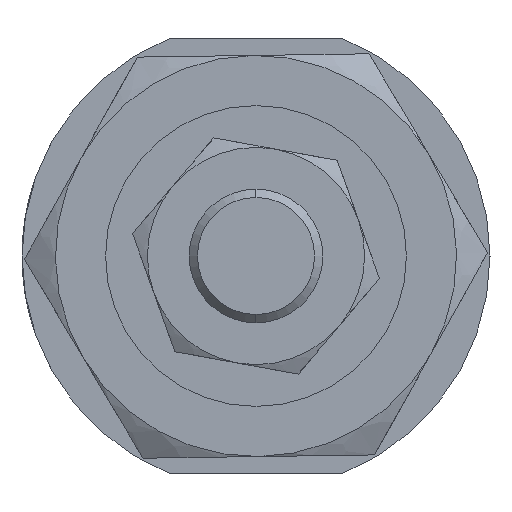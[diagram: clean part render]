
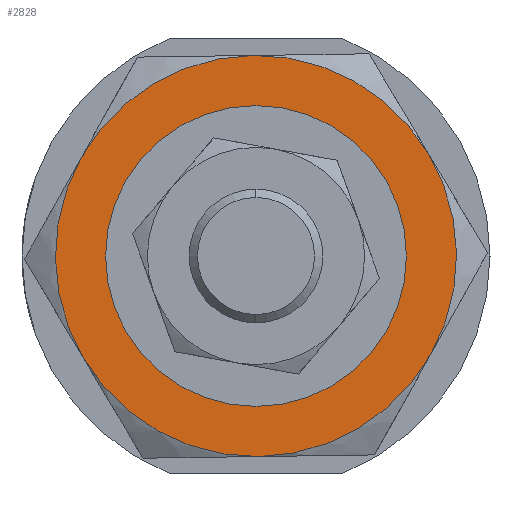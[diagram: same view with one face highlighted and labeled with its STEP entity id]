
A CAD part, left-side view. The second image highlights one B-rep face of the part: STEP entity #2828.
In plain terms, the highlighted planar face has unit normal (-1, 0, 0) as drawn and (0, 0, -1) by its records, which use the part's own axes.
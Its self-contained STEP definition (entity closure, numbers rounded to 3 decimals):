
#11 = CARTESIAN_POINT ( 'NONE',  ( 0., 0., -4. ) ) ;
#21 = VERTEX_POINT ( 'NONE', #2482 ) ;
#34 = CIRCLE ( 'NONE', #2587, 8.25 ) ;
#95 = EDGE_CURVE ( 'NONE', #2092, #21, #34, .T. ) ;
#115 = EDGE_CURVE ( 'NONE', #1428, #842, #1124, .T. ) ;
#134 = DIRECTION ( 'NONE',  ( 1., 0., 0. ) ) ;
#168 = AXIS2_PLACEMENT_3D ( 'NONE', #1250, #2747, #303 ) ;
#170 = CARTESIAN_POINT ( 'NONE',  ( 0., 0., -4. ) ) ;
#215 = AXIS2_PLACEMENT_3D ( 'NONE', #595, #2532, #134 ) ;
#241 = CARTESIAN_POINT ( 'NONE',  ( 0., 0., -4. ) ) ;
#242 = VERTEX_POINT ( 'NONE', #480 ) ;
#274 = ORIENTED_EDGE ( 'NONE', *, *, #1586, .T. ) ;
#299 = DIRECTION ( 'NONE',  ( 1., 0., 0. ) ) ;
#303 = DIRECTION ( 'NONE',  ( 1., 0., 0. ) ) ;
#356 = DIRECTION ( 'NONE',  ( 0., 0., 1. ) ) ;
#388 = DIRECTION ( 'NONE',  ( 0., 0., 1. ) ) ;
#408 = CARTESIAN_POINT ( 'NONE',  ( 8.25, 0., -4. ) ) ;
#479 = CARTESIAN_POINT ( 'NONE',  ( -12., 0., -4. ) ) ;
#480 = CARTESIAN_POINT ( 'NONE',  ( -6., -10.392, -4. ) ) ;
#502 = EDGE_LOOP ( 'NONE', ( #1824, #274 ) ) ;
#532 = DIRECTION ( 'NONE',  ( 1., 0., 0. ) ) ;
#538 = CARTESIAN_POINT ( 'NONE',  ( -6., 10.392, -4. ) ) ;
#554 = AXIS2_PLACEMENT_3D ( 'NONE', #11, #1778, #678 ) ;
#560 = DIRECTION ( 'NONE',  ( 0., 0., 1. ) ) ;
#589 = AXIS2_PLACEMENT_3D ( 'NONE', #2228, #388, #532 ) ;
#595 = CARTESIAN_POINT ( 'NONE',  ( 0., 0., -4. ) ) ;
#629 = AXIS2_PLACEMENT_3D ( 'NONE', #1277, #1727, #2275 ) ;
#640 = ORIENTED_EDGE ( 'NONE', *, *, #2792, .F. ) ;
#650 = DIRECTION ( 'NONE',  ( 1., 0., 0. ) ) ;
#678 = DIRECTION ( 'NONE',  ( 1., 0., 0. ) ) ;
#789 = CARTESIAN_POINT ( 'NONE',  ( 0., 0., -4. ) ) ;
#833 = VERTEX_POINT ( 'NONE', #2910 ) ;
#842 = VERTEX_POINT ( 'NONE', #1443 ) ;
#970 = ORIENTED_EDGE ( 'NONE', *, *, #2935, .F. ) ;
#982 = ORIENTED_EDGE ( 'NONE', *, *, #1219, .F. ) ;
#1011 = CIRCLE ( 'NONE', #168, 8.25 ) ;
#1081 = EDGE_LOOP ( 'NONE', ( #1785, #970, #982, #2689, #640, #1549 ) ) ;
#1094 = AXIS2_PLACEMENT_3D ( 'NONE', #3110, #356, #2104 ) ;
#1124 = CIRCLE ( 'NONE', #2097, 12. ) ;
#1142 = CIRCLE ( 'NONE', #554, 12. ) ;
#1146 = VERTEX_POINT ( 'NONE', #538 ) ;
#1174 = FACE_BOUND ( 'NONE', #502, .T. ) ;
#1219 = EDGE_CURVE ( 'NONE', #242, #833, #2120, .T. ) ;
#1250 = CARTESIAN_POINT ( 'NONE',  ( 0., 0., -4. ) ) ;
#1274 = DIRECTION ( 'NONE',  ( 1., 0., 0. ) ) ;
#1277 = CARTESIAN_POINT ( 'NONE',  ( 0., 0., -4. ) ) ;
#1278 = CIRCLE ( 'NONE', #1094, 12. ) ;
#1428 = VERTEX_POINT ( 'NONE', #2610 ) ;
#1443 = CARTESIAN_POINT ( 'NONE',  ( 6., 10.392, -4. ) ) ;
#1469 = FACE_OUTER_BOUND ( 'NONE', #1081, .T. ) ;
#1549 = ORIENTED_EDGE ( 'NONE', *, *, #1760, .F. ) ;
#1573 = CIRCLE ( 'NONE', #215, 12. ) ;
#1586 = EDGE_CURVE ( 'NONE', #21, #2092, #1011, .T. ) ;
#1727 = DIRECTION ( 'NONE',  ( 0., 0., 1. ) ) ;
#1760 = EDGE_CURVE ( 'NONE', #842, #1146, #1278, .T. ) ;
#1778 = DIRECTION ( 'NONE',  ( 0., 0., 1. ) ) ;
#1785 = ORIENTED_EDGE ( 'NONE', *, *, #115, .F. ) ;
#1824 = ORIENTED_EDGE ( 'NONE', *, *, #95, .T. ) ;
#1928 = DIRECTION ( 'NONE',  ( 0., 0., 1. ) ) ;
#1956 = DIRECTION ( 'NONE',  ( 0., 0., 1. ) ) ;
#2092 = VERTEX_POINT ( 'NONE', #408 ) ;
#2097 = AXIS2_PLACEMENT_3D ( 'NONE', #241, #560, #650 ) ;
#2104 = DIRECTION ( 'NONE',  ( 1., 0., 0. ) ) ;
#2120 = CIRCLE ( 'NONE', #589, 12. ) ;
#2228 = CARTESIAN_POINT ( 'NONE',  ( 0., 0., -4. ) ) ;
#2275 = DIRECTION ( 'NONE',  ( 1., 0., 0. ) ) ;
#2470 = AXIS2_PLACEMENT_3D ( 'NONE', #170, #1928, #1274 ) ;
#2482 = CARTESIAN_POINT ( 'NONE',  ( -8.25, 0., -4. ) ) ;
#2532 = DIRECTION ( 'NONE',  ( 0., 0., 1. ) ) ;
#2587 = AXIS2_PLACEMENT_3D ( 'NONE', #789, #1956, #299 ) ;
#2610 = CARTESIAN_POINT ( 'NONE',  ( 12., 0., -4. ) ) ;
#2689 = ORIENTED_EDGE ( 'NONE', *, *, #3124, .F. ) ;
#2729 = VERTEX_POINT ( 'NONE', #479 ) ;
#2747 = DIRECTION ( 'NONE',  ( 0., 0., 1. ) ) ;
#2780 = PLANE ( 'NONE',  #629 ) ;
#2792 = EDGE_CURVE ( 'NONE', #1146, #2729, #3048, .T. ) ;
#2828 = ADVANCED_FACE ( 'NONE', ( #1174, #1469 ), #2780, .F. ) ;
#2910 = CARTESIAN_POINT ( 'NONE',  ( 6., -10.392, -4. ) ) ;
#2935 = EDGE_CURVE ( 'NONE', #833, #1428, #1573, .T. ) ;
#3048 = CIRCLE ( 'NONE', #2470, 12. ) ;
#3110 = CARTESIAN_POINT ( 'NONE',  ( 0., 0., -4. ) ) ;
#3124 = EDGE_CURVE ( 'NONE', #2729, #242, #1142, .T. ) ;
